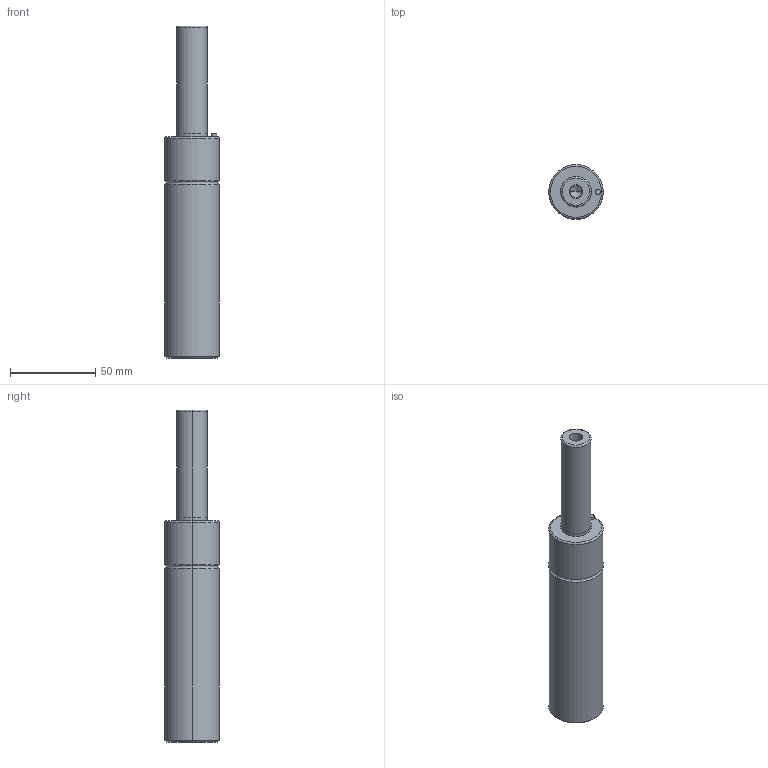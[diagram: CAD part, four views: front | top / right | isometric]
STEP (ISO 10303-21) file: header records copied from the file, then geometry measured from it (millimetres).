
FILE_DESCRIPTION(/* description */ (''),/* implementation_level */ '2;1');
FILE_NAME(/* name */ '3d_gsm32-63_03923_r00.stp',/* time_stamp */ '2011-01-10T14:15:16+09:00',/* author */ ('MISUMI'),/* organization */ (''),/* preprocessor_version */ 'ST-DEVELOPER v11',/* originating_system */ 'UGS - NX 5.0',/* authorisation */ '');
FILE_SCHEMA (('CONFIG_CONTROL_DESIGN'));
Length unit declared in the file: millimetre
Products named in the file (1): 3d_gsm32-63_03923_r00
Bounding box: 32 x 32 x 195 mm (x, y, z)
Volume: 119463.4 mm3; surface area: 19210.7 mm2
Topology: 1 solids, 1 shells, 50 faces, 106 edges, 60 vertices
Faces by surface type: cylinder 26, cone 10, plane 8, torus 6
Entity records: 1382 total; most frequent: DIRECTION 262, CARTESIAN_POINT 209, ORIENTED_EDGE 196, AXIS2_PLACEMENT_3D 113, EDGE_CURVE 98, CIRCLE 62, EDGE_LOOP 60, VERTEX_POINT 60
